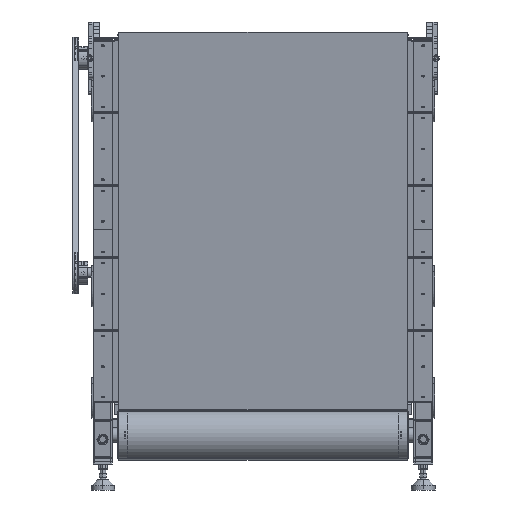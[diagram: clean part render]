
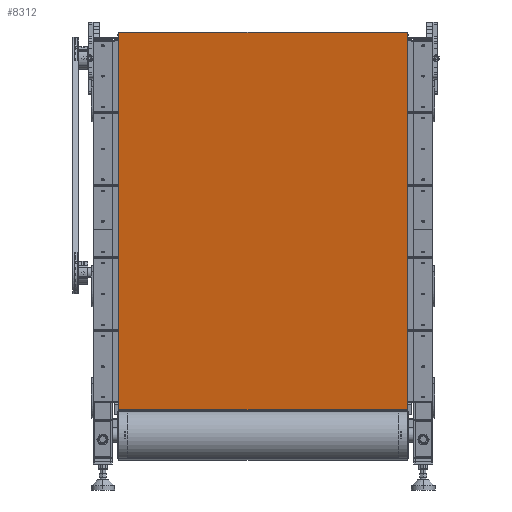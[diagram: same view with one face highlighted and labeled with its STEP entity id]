
A CAD part, left-side view. The second image highlights one B-rep face of the part: STEP entity #8312.
In plain terms, the highlighted planar face has unit normal (-0.166, 0, 0.986).
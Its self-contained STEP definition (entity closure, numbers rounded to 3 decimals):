
#6329=PLANE('',#43215);
#8312=ADVANCED_FACE('',(#10813),#6329,.T.);
#10813=FACE_OUTER_BOUND('',#13228,.T.);
#13228=EDGE_LOOP('',(#28366,#28367,#28368,#28369));
#15688=LINE('',#70166,#18543);
#15691=LINE('',#70177,#18546);
#15692=LINE('',#70179,#18547);
#15693=LINE('',#70181,#18548);
#18543=VECTOR('',#51078,1.);
#18546=VECTOR('',#51089,1.);
#18547=VECTOR('',#51090,1.);
#18548=VECTOR('',#51091,1.);
#28366=ORIENTED_EDGE('',*,*,#38568,.T.);
#28367=ORIENTED_EDGE('',*,*,#38563,.T.);
#28368=ORIENTED_EDGE('',*,*,#38569,.T.);
#28369=ORIENTED_EDGE('',*,*,#38570,.T.);
#33285=VERTEX_POINT('',#70160);
#33288=VERTEX_POINT('',#70165);
#33293=VERTEX_POINT('',#70178);
#33294=VERTEX_POINT('',#70180);
#38563=EDGE_CURVE('',#33285,#33288,#15688,.T.);
#38568=EDGE_CURVE('',#33293,#33285,#15691,.T.);
#38569=EDGE_CURVE('',#33288,#33294,#15692,.T.);
#38570=EDGE_CURVE('',#33294,#33293,#15693,.T.);
#43215=AXIS2_PLACEMENT_3D('',#70182,#51092,#51093);
#51078=DIRECTION('',(0.,-1.,0.));
#51089=DIRECTION('',(-0.986,0.,-0.165));
#51090=DIRECTION('',(0.986,0.,0.165));
#51091=DIRECTION('',(0.,1.,0.));
#51092=DIRECTION('',(-0.165,0.,0.986));
#51093=DIRECTION('',(-0.986,0.,-0.165));
#70160=CARTESIAN_POINT('',(-2725.46,300.,-340.352));
#70165=CARTESIAN_POINT('',(-2725.46,-300.,-340.352));
#70166=CARTESIAN_POINT('',(-2725.46,300.,-340.352));
#70177=CARTESIAN_POINT('',(-2725.46,300.,-340.352));
#70178=CARTESIAN_POINT('',(1954.327,300.,444.891));
#70179=CARTESIAN_POINT('',(-2725.46,-300.,-340.352));
#70180=CARTESIAN_POINT('',(1954.327,-300.,444.891));
#70181=CARTESIAN_POINT('',(1954.327,300.,444.891));
#70182=CARTESIAN_POINT('',(-2725.46,300.,-340.352));
